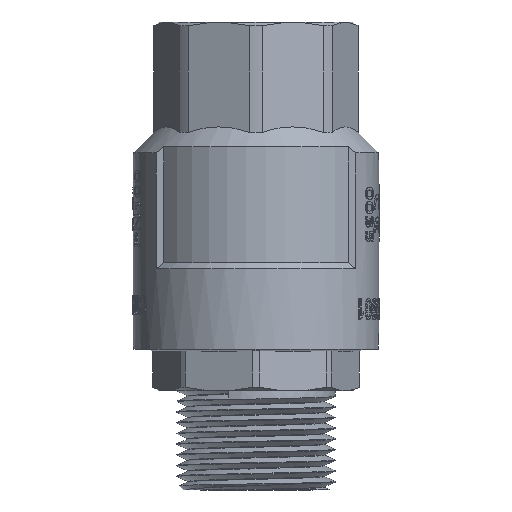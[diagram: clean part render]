
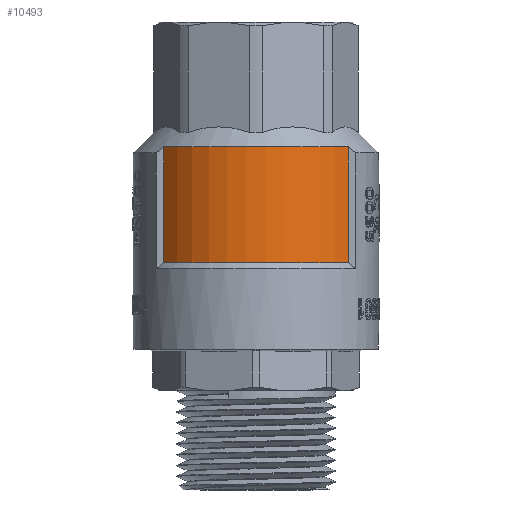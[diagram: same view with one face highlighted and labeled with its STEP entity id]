
A CAD part, front view. The second image highlights one B-rep face of the part: STEP entity #10493.
In plain terms, the highlighted cylindrical face has radius 19.619 mm (diameter 39.237 mm), a partial arc.
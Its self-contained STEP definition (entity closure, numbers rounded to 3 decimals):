
#700=CIRCLE('',#11031,19.619);
#701=CIRCLE('',#11032,19.619);
#1343=FACE_OUTER_BOUND('',#1989,.T.);
#1989=EDGE_LOOP('',(#9300,#9301,#9302,#9303));
#3244=LINE('',#28280,#3946);
#3245=LINE('',#28291,#3947);
#3946=VECTOR('',#12628,10.);
#3947=VECTOR('',#12633,10.);
#4941=VERTEX_POINT('',#28272);
#4942=VERTEX_POINT('',#28276);
#4943=VERTEX_POINT('',#28286);
#4944=VERTEX_POINT('',#28290);
#6429=EDGE_CURVE('',#4941,#4942,#3244,.T.);
#6432=EDGE_CURVE('',#4944,#4943,#3245,.T.);
#6434=EDGE_CURVE('',#4943,#4941,#700,.T.);
#6435=EDGE_CURVE('',#4944,#4942,#701,.T.);
#9300=ORIENTED_EDGE('',*,*,#6432,.T.);
#9301=ORIENTED_EDGE('',*,*,#6434,.T.);
#9302=ORIENTED_EDGE('',*,*,#6429,.T.);
#9303=ORIENTED_EDGE('',*,*,#6435,.F.);
#9973=CYLINDRICAL_SURFACE('',#11030,19.619);
#10493=ADVANCED_FACE('',(#1343),#9973,.T.);
#11030=AXIS2_PLACEMENT_3D('',#28296,#12636,#12637);
#11031=AXIS2_PLACEMENT_3D('',#28297,#12638,#12639);
#11032=AXIS2_PLACEMENT_3D('',#28298,#12640,#12641);
#12628=DIRECTION('',(0.,0.,-1.));
#12633=DIRECTION('',(0.,0.,1.));
#12636=DIRECTION('center_axis',(0.,0.,-1.));
#12637=DIRECTION('ref_axis',(0.,-1.,0.));
#12638=DIRECTION('center_axis',(0.,0.,-1.));
#12639=DIRECTION('ref_axis',(1.,0.,0.));
#12640=DIRECTION('center_axis',(0.,0.,-1.));
#12641=DIRECTION('ref_axis',(1.,0.,0.));
#28272=CARTESIAN_POINT('',(-15.521,-12.,14.5));
#28276=CARTESIAN_POINT('',(-15.521,-12.,-5.));
#28280=CARTESIAN_POINT('',(-15.521,-12.,4.75));
#28286=CARTESIAN_POINT('',(15.521,-12.,14.5));
#28290=CARTESIAN_POINT('',(15.521,-12.,-5.));
#28291=CARTESIAN_POINT('',(15.521,-12.,4.75));
#28296=CARTESIAN_POINT('Origin',(0.,0.,4.75));
#28297=CARTESIAN_POINT('Origin',(0.,0.,14.5));
#28298=CARTESIAN_POINT('Origin',(0.,0.,-5.));
